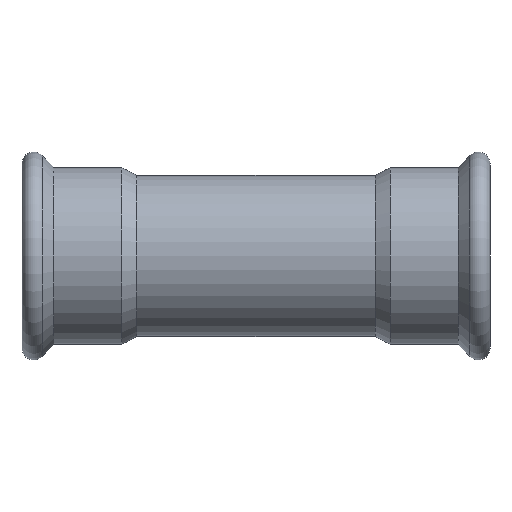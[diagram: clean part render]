
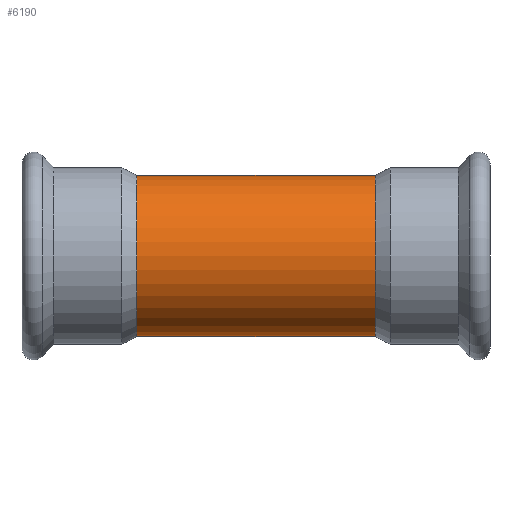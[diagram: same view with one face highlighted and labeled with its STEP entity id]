
A CAD part, front view. The second image highlights one B-rep face of the part: STEP entity #6190.
In plain terms, the highlighted cylindrical face has radius 20.65 mm (diameter 41.3 mm), a partial arc.
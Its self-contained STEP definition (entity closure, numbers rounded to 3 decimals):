
#247 = CARTESIAN_POINT ( 'NONE',  ( -30.626, 0., -20.65 ) ) ;
#256 = DIRECTION ( 'NONE',  ( -1., 0., 0. ) ) ;
#413 = EDGE_CURVE ( 'NONE', #442, #2934, #2041, .T. ) ;
#424 = AXIS2_PLACEMENT_3D ( 'NONE', #2313, #586, #3847 ) ;
#442 = VERTEX_POINT ( 'NONE', #6566 ) ;
#586 = DIRECTION ( 'NONE',  ( -1., 0., 0. ) ) ;
#671 = LINE ( 'NONE', #2807, #5839 ) ;
#757 = CIRCLE ( 'NONE', #424, 20.65 ) ;
#1048 = ORIENTED_EDGE ( 'NONE', *, *, #4534, .F. ) ;
#1050 = DIRECTION ( 'NONE',  ( -1., 0., 0. ) ) ;
#1221 = AXIS2_PLACEMENT_3D ( 'NONE', #5563, #256, #6633 ) ;
#1314 = DIRECTION ( 'NONE',  ( -1., 0., 0. ) ) ;
#1348 = CARTESIAN_POINT ( 'NONE',  ( 30.626, 0., 20.65 ) ) ;
#1518 = VERTEX_POINT ( 'NONE', #3806 ) ;
#2041 = CIRCLE ( 'NONE', #6095, 20.65 ) ;
#2313 = CARTESIAN_POINT ( 'NONE',  ( -30.626, 0., 0. ) ) ;
#2751 = VERTEX_POINT ( 'NONE', #247 ) ;
#2807 = CARTESIAN_POINT ( 'NONE',  ( 0., 0., -20.65 ) ) ;
#2852 = EDGE_LOOP ( 'NONE', ( #1048, #2997, #5241, #6377 ) ) ;
#2934 = VERTEX_POINT ( 'NONE', #1348 ) ;
#2997 = ORIENTED_EDGE ( 'NONE', *, *, #413, .T. ) ;
#3174 = LINE ( 'NONE', #3293, #5212 ) ;
#3293 = CARTESIAN_POINT ( 'NONE',  ( 0., 0., 20.65 ) ) ;
#3806 = CARTESIAN_POINT ( 'NONE',  ( -30.626, 0., 20.65 ) ) ;
#3847 = DIRECTION ( 'NONE',  ( 0., 0., 1. ) ) ;
#4024 = FACE_OUTER_BOUND ( 'NONE', #2852, .T. ) ;
#4534 = EDGE_CURVE ( 'NONE', #442, #2751, #671, .T. ) ;
#4602 = CYLINDRICAL_SURFACE ( 'NONE', #1221, 20.65 ) ;
#5077 = DIRECTION ( 'NONE',  ( 0., 0., 1. ) ) ;
#5130 = EDGE_CURVE ( 'NONE', #2751, #1518, #757, .T. ) ;
#5212 = VECTOR ( 'NONE', #1050, 1000. ) ;
#5241 = ORIENTED_EDGE ( 'NONE', *, *, #5484, .T. ) ;
#5484 = EDGE_CURVE ( 'NONE', #2934, #1518, #3174, .T. ) ;
#5563 = CARTESIAN_POINT ( 'NONE',  ( 0., 0., 0. ) ) ;
#5592 = CARTESIAN_POINT ( 'NONE',  ( 30.626, 0., 0. ) ) ;
#5839 = VECTOR ( 'NONE', #1314, 1000. ) ;
#6095 = AXIS2_PLACEMENT_3D ( 'NONE', #5592, #6172, #5077 ) ;
#6172 = DIRECTION ( 'NONE',  ( -1., 0., 0. ) ) ;
#6190 = ADVANCED_FACE ( 'NONE', ( #4024 ), #4602, .T. ) ;
#6377 = ORIENTED_EDGE ( 'NONE', *, *, #5130, .F. ) ;
#6566 = CARTESIAN_POINT ( 'NONE',  ( 30.626, 0., -20.65 ) ) ;
#6633 = DIRECTION ( 'NONE',  ( 0., 0., 1. ) ) ;
